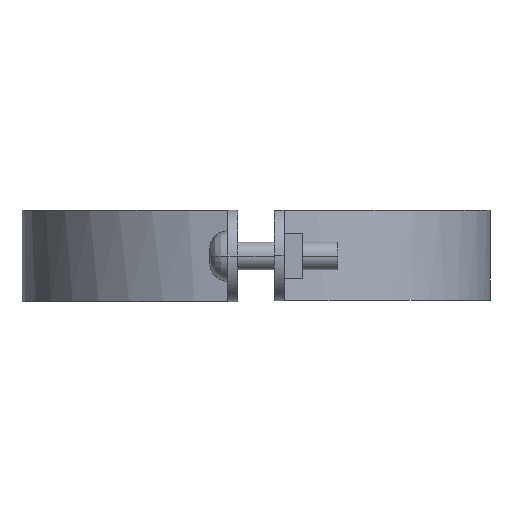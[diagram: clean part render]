
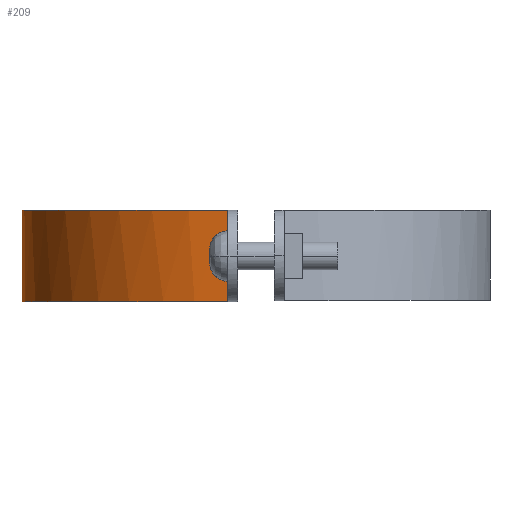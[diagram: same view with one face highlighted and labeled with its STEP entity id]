
A CAD part, left-side view. The second image highlights one B-rep face of the part: STEP entity #209.
In plain terms, the highlighted free-form (B-spline) face has degree [3, 1] with [4, 2] control points.
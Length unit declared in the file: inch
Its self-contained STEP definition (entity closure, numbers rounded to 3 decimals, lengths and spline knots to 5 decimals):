
#209=ADVANCED_FACE('',(#441),#442,.T.);
#441=FACE_OUTER_BOUND('',#915,.T.);
#442=B_SPLINE_SURFACE_WITH_KNOTS('',3,1,((#916,#917),(#918,#919),(#920,#921),(#922,#923)),.UNSPECIFIED.,.F.,.F.,.F.,(4,4),(2,2),(-1.0,-0.0),(0.0,1.25),.UNSPECIFIED.);
#915=EDGE_LOOP('',(#1542,#1543,#1544,#1545));
#916=CARTESIAN_POINT('',(3.90808,6.35972,0.0));
#917=CARTESIAN_POINT('',(3.90808,6.35972,1.25));
#918=CARTESIAN_POINT('',(2.29043,6.35972,0.0));
#919=CARTESIAN_POINT('',(2.29043,6.35972,1.25));
#920=CARTESIAN_POINT('',(0.92739,5.152,0.0));
#921=CARTESIAN_POINT('',(0.92739,5.152,1.25));
#922=CARTESIAN_POINT('',(0.73262,3.54611,0.0));
#923=CARTESIAN_POINT('',(0.73262,3.54611,1.25));
#1542=ORIENTED_EDGE('',*,*,#2053,.T.);
#1543=ORIENTED_EDGE('',*,*,#1998,.T.);
#1544=ORIENTED_EDGE('',*,*,#2097,.T.);
#1545=ORIENTED_EDGE('',*,*,#2098,.F.);
#1998=EDGE_CURVE('',#2262,#2269,#2271,.T.);
#2053=EDGE_CURVE('',#2360,#2262,#2368,.T.);
#2097=EDGE_CURVE('',#2269,#2440,#2441,.T.);
#2098=EDGE_CURVE('',#2360,#2440,#2442,.T.);
#2262=VERTEX_POINT('',#2688);
#2269=VERTEX_POINT('',#2702);
#2271=LINE('',#2705,#2706);
#2360=VERTEX_POINT('',#2880);
#2368=B_SPLINE_CURVE_WITH_KNOTS('',3,(#2893,#2894,#2895,#2896),.UNSPECIFIED.,.F.,.F.,(4,4),(-1.0,-0.0),.UNSPECIFIED.);
#2440=VERTEX_POINT('',#3019);
#2441=B_SPLINE_CURVE_WITH_KNOTS('',3,(#3020,#3021,#3022,#3023),.UNSPECIFIED.,.F.,.F.,(4,4),(0.0,1.0),.UNSPECIFIED.);
#2442=LINE('',#3024,#3025);
#2688=CARTESIAN_POINT('',(0.73262,3.54611,0.00011));
#2702=CARTESIAN_POINT('',(0.73262,3.54611,1.24992));
#2705=CARTESIAN_POINT('',(0.73262,3.54611,0.0));
#2706=VECTOR('',#3386,1.0);
#2880=CARTESIAN_POINT('',(3.90808,6.35972,0.00011));
#2893=CARTESIAN_POINT('',(3.90808,6.35972,0.00011));
#2894=CARTESIAN_POINT('',(2.29043,6.35972,0.00011));
#2895=CARTESIAN_POINT('',(0.92739,5.152,0.00011));
#2896=CARTESIAN_POINT('',(0.73262,3.54611,0.00011));
#3019=CARTESIAN_POINT('',(3.90808,6.35972,1.24992));
#3020=CARTESIAN_POINT('',(0.73262,3.54611,1.24992));
#3021=CARTESIAN_POINT('',(0.92739,5.152,1.24992));
#3022=CARTESIAN_POINT('',(2.29043,6.35972,1.24992));
#3023=CARTESIAN_POINT('',(3.90808,6.35972,1.24992));
#3024=CARTESIAN_POINT('',(3.90808,6.35972,0.0));
#3025=VECTOR('',#3450,1.0);
#3386=DIRECTION('',(0.0,0.0,1.0));
#3450=DIRECTION('',(0.0,0.0,1.0));
